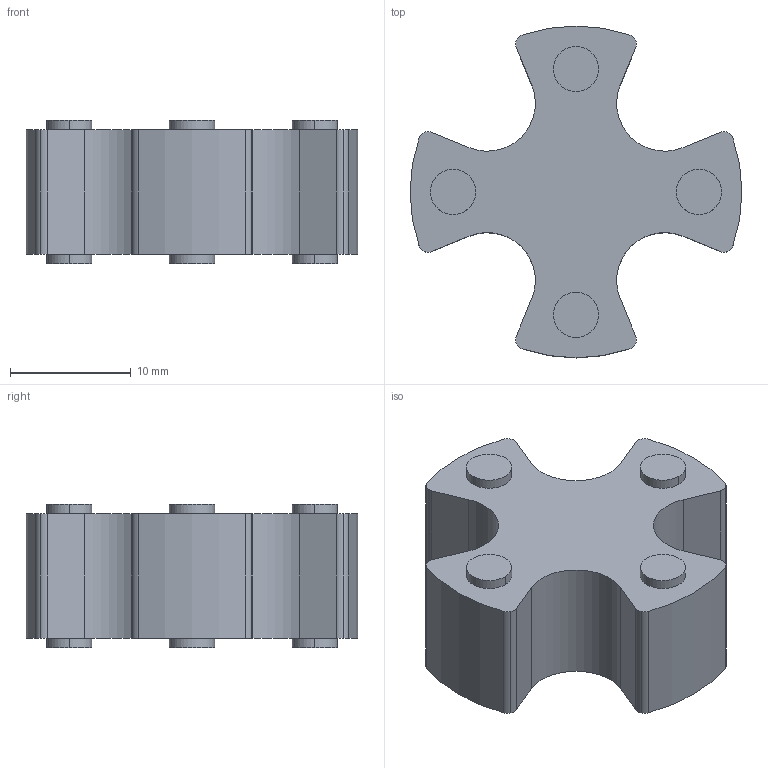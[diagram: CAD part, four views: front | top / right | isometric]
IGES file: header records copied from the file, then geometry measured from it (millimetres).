
Global section: file name: C:\Documents and Settings\Administrator\Desktop\Transfer Temp\lovejoyinsert.igs; native system: AutoDesk Inventor R2.0 ; preprocessor: AutoDesk Inventor Iges Exporter R2.0; author: No Author specified; organization: No Organization specified; date: 20011227.203130; units: inch
Bounding box: 27.43 x 27.43 x 11.89 mm (x, y, z)
Surface area: 1956.4 mm2 (no closed solid volume)
Topology: 0 solids, 0 shells, 58 faces, 288 edges, 288 vertices
Faces by surface type: revolution 40, bspline 18
